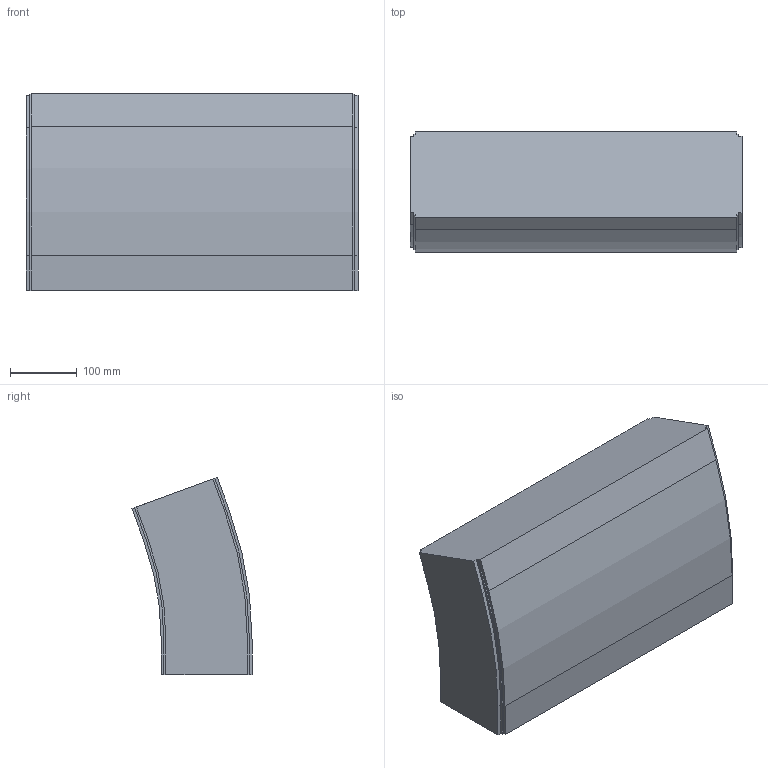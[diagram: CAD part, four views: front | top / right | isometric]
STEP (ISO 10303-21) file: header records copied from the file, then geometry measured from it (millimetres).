
FILE_DESCRIPTION (( 'STEP AP214' ), '1' );
FILE_NAME ('FS-MTC2-150-INOX verticaalbocht.500 20°.STEP', '2017-02-08T12:42:23', ( '' ), ( '' ), 'SwSTEP 2.0', 'SolidWorks 2016', '' );
FILE_SCHEMA (( 'AUTOMOTIVE_DESIGN' ));
Length unit declared in the file: millimetre
Products named in the file (1): FS-MTC2-150-INOX verticaalbocht.500 20°
Bounding box: 499 x 180.49 x 296.19 mm (x, y, z)
Volume: 18983164.8 mm3; surface area: 491106.9 mm2
Topology: 1 solids, 1 shells, 42 faces, 120 edges, 80 vertices
Faces by surface type: plane 32, cylinder 10
Entity records: 1398 total; most frequent: CARTESIAN_POINT 243, ORIENTED_EDGE 240, DIRECTION 226, EDGE_CURVE 120, VECTOR 100, LINE 100, VERTEX_POINT 80, AXIS2_PLACEMENT_3D 63
